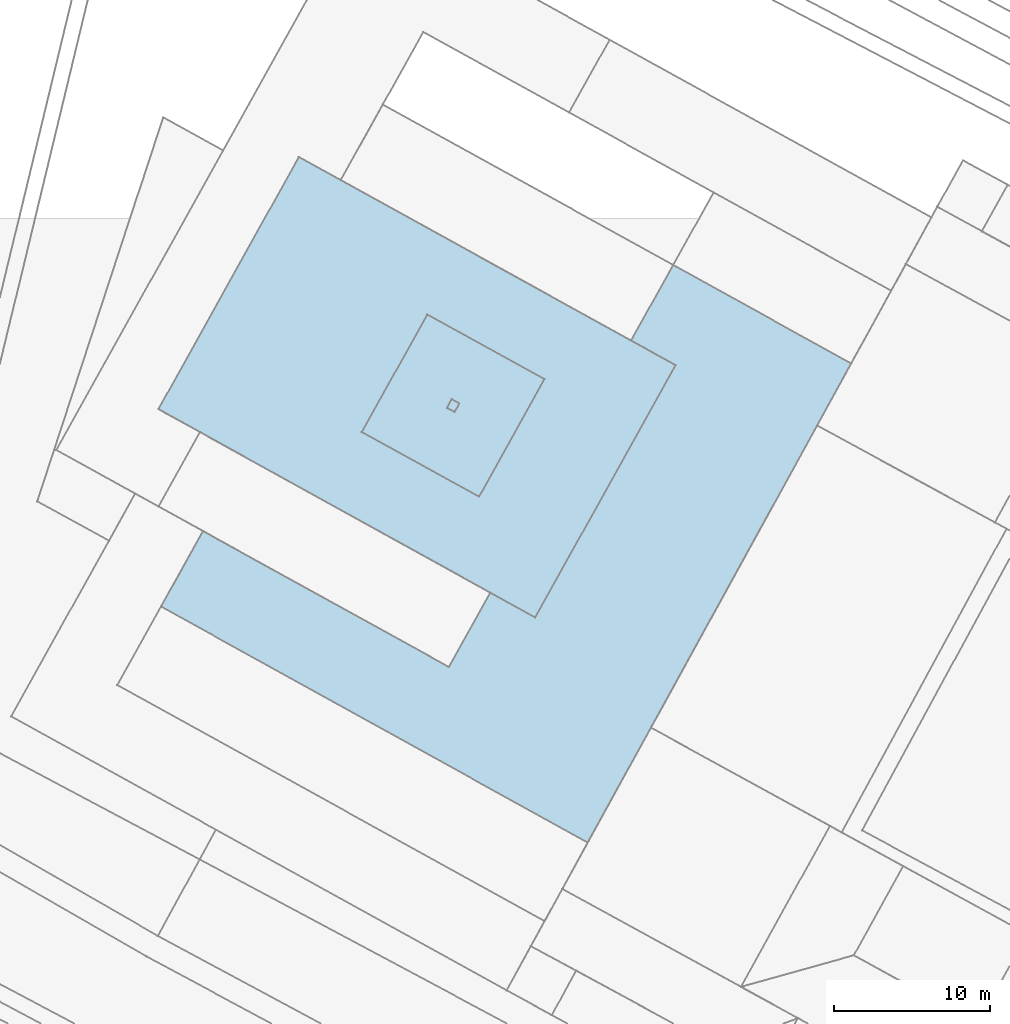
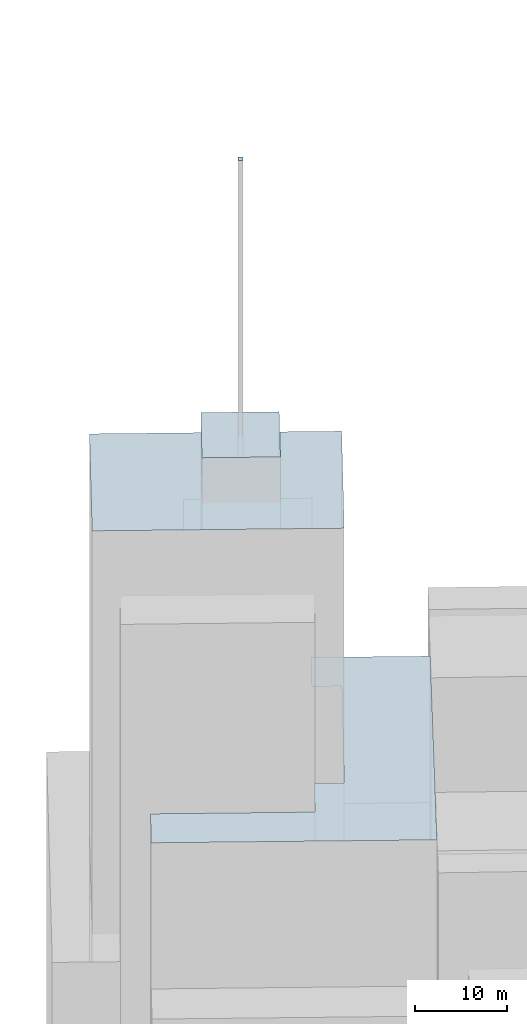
# Not in any storey, part 44 of 80: 4 roofs.
"""IFC4 building model written with IfcOpenShell, lengths in metres."""

from ifc_helpers import new_model, si_unit, frame, origin_with_axes, place, context, subcontext, project, spatial, polygons, element, save


model = new_model("IFC4")

# Units and contexts
model_context = context("Model", 3, precision=1e-05, world=origin_with_axes())
body_context = subcontext(model_context, "Body", "Model", "MODEL_VIEW")
ifc_project = project(units=[si_unit("AREAUNIT", "SQUARE_METRE"), si_unit("LENGTHUNIT", "METRE")], contexts=[model_context])

# Sites, building
site_1_placement = place(None, origin_with_axes())
site_1 = spatial("IfcSite", under=ifc_project, at=site_1_placement, Name="Topoexport Site")
site_2_placement = place(site_1_placement, origin_with_axes())
site_2 = spatial("IfcSite", under=site_1, at=site_2_placement, Name="TPX_BATIMENTS")
building_1_placement = place(site_2_placement, frame((16.7688335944, 354.7226631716, 22.4076126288), z_axis=(0.0, 0.0, 1.0), x_axis=(1.0, 0.0, 0.0)))
building_1 = spatial("IfcBuilding", under=site_2, at=building_1_placement, Name="Batiment 306", CompositionType="ELEMENT")

# Roof
roof_1_placement = place(None, frame((16.7688335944, 354.7226631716, 22.4076126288), z_axis=(0.0, 0.0, 1.0), x_axis=(1.0, 0.0, 0.0)))
element("IfcRoof", 1, at=roof_1_placement, inside=building_1, Name="Toiture 0", context=body_context, shape_type="Tessellation", body=[
    polygons([(0.0, 0.0, 80.0), (27.3056955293, -15.1041300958, 80.0), (44.1700510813, 15.5562215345, 80.0), (32.7770605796, 21.8632672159, 80.0), (30.0813661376, 17.0247000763, 80.0), (32.9359432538, 15.4480094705, 80.0), (23.9392342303, -0.6991752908, 80.0), (21.0760840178, 0.8885216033, 80.0), (18.4215440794, -3.8607450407, 80.0), (2.6874090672, 4.8273569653, 80.0)], [[[10, 1, 2]], [[3, 4, 5]], [[7, 8, 9]], [[9, 10, 2]], [[3, 5, 6]], [[7, 9, 2]], [[2, 3, 6]], [[6, 7, 2]]]),
])

# Building
building_2_placement = place(site_2_placement, frame((16.6053672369, 367.3551282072, 22.4076126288), z_axis=(0.0, 0.0, 1.0), x_axis=(1.0, 0.0, 0.0)))
building_2 = spatial("IfcBuilding", under=site_2, at=building_2_placement, Name="Batiment 309", CompositionType="ELEMENT")

# Roof
roof_2_placement = place(None, frame((16.6053672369, 367.3551282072, 22.4076126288), z_axis=(0.0, 0.0, 1.0), x_axis=(1.0, 0.0, 0.0)))
element("IfcRoof", 2, at=roof_2_placement, inside=building_2, Name="Toiture 0", context=body_context, shape_type="Tessellation", body=[
    polygons([(0.0, 0.0, 114.0), (24.1027005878, -13.3316403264, 114.0), (33.0994096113, 2.8155444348, 114.0), (8.9883032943, 16.1470573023, 114.0)], [[[4, 1, 2]], [[2, 3, 4]]]),
])

# Building
building_3_placement = place(site_2_placement, frame((35.0654153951, 367.4472321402, 22.5801140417), z_axis=(0.0, 0.0, 1.0), x_axis=(1.0, 0.0, 0.0)))
building_3 = spatial("IfcBuilding", under=site_2, at=building_3_placement, Name="Batiment 310", CompositionType="ELEMENT")

# Roof
roof_3_placement = place(None, frame((35.0654153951, 367.4472321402, 22.5801140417), z_axis=(0.0, 0.0, 1.0), x_axis=(1.0, 0.0, 0.0)))
element("IfcRoof", 3, at=roof_3_placement, inside=building_3, Name="Toiture 0", context=body_context, shape_type="Tessellation", body=[
    polygons([(0.0, 0.0, 156.6999969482), (0.4927502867, -0.2718373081, 156.6999969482), (0.7987231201, 0.2757242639, 156.6999969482), (0.3059728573, 0.5475615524, 156.6999969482)], [[[4, 1, 2]], [[2, 3, 4]]]),
])

# Building
building_4_placement = place(site_2_placement, frame((29.6218946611, 365.8963536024, 22.4832836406), z_axis=(0.0, 0.0, 1.0), x_axis=(1.0, 0.0, 0.0)))
building_4 = spatial("IfcBuilding", under=site_2, at=building_4_placement, Name="Batiment 311", CompositionType="ELEMENT")

# Roof
roof_4_placement = place(None, frame((29.6218946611, 365.8963536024, 22.4832836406), z_axis=(0.0, 0.0, 1.0), x_axis=(1.0, 0.0, 0.0)))
element("IfcRoof", 4, at=roof_4_placement, inside=building_4, Name="Toiture 0", context=body_context, shape_type="Tessellation", body=[
    polygons([(0.0, 0.0, 120.0), (7.5017517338, -4.1428926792, 120.0), (11.6857620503, 3.3774859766, 120.0), (4.192455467, 7.5204723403, 120.0)], [[[4, 1, 2]], [[2, 3, 4]]]),
])

save(model, "model.ifc")
